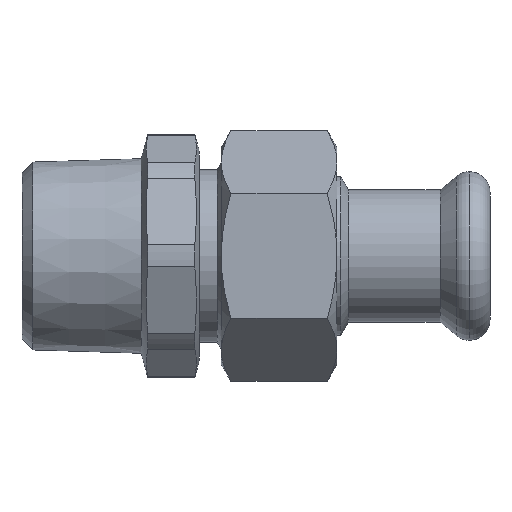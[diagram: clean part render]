
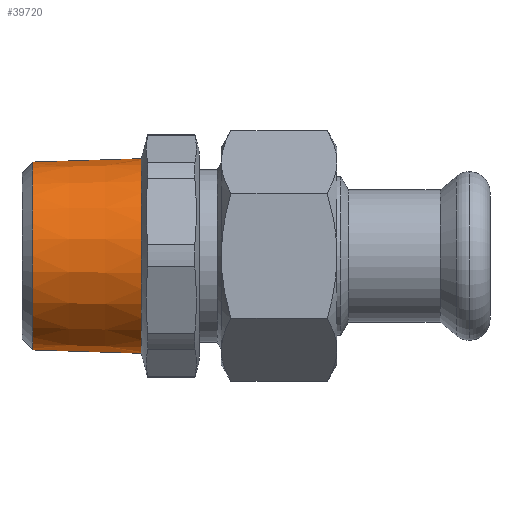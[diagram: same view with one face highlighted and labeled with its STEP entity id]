
A CAD part, top view. The second image highlights one B-rep face of the part: STEP entity #39720.
In plain terms, the highlighted conical face has half-angle 1.79 degrees and reference radius 13.453 mm.
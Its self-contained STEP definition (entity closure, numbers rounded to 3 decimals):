
#37800=CARTESIAN_POINT('',(232.749,0.274,
0.));
#37810=VERTEX_POINT('',#37800);
#39270=CARTESIAN_POINT('',(232.749,27.18,
0.));
#39280=VERTEX_POINT('',#39270);
#39310=CARTESIAN_POINT('',(232.749,13.727,
0.));
#39320=DIRECTION('',(-1.,0.,0.));
#39330=DIRECTION('',(0.,1.,0.));
#39340=AXIS2_PLACEMENT_3D('',#39310,#39320,#39330);
#39350=CIRCLE('',#39340,13.453);
#39360=EDGE_CURVE('',#37810,#39280,#39350,.T.);
#39410=CARTESIAN_POINT('',(232.749,13.727,
0.));
#39420=DIRECTION('',(-1.,0.,0.));
#39430=DIRECTION('',(0.,1.,0.));
#39440=AXIS2_PLACEMENT_3D('',#39410,#39420,#39430);
#39450=CONICAL_SURFACE('',#39440,13.453,0.031);
#39460=CARTESIAN_POINT('',(232.749,0.274,
0.));
#39470=DIRECTION('',(-1.,-0.031,
0.));
#39480=VECTOR('',#39470,1.);
#39490=LINE('',#39460,#39480);
#39500=CARTESIAN_POINT('',(247.749,0.742,
0.));
#39510=VERTEX_POINT('',#39500);
#39520=EDGE_CURVE('',#39510,#37810,#39490,.T.);
#39530=ORIENTED_EDGE('',*,*,#39520,.F.);
#39540=ORIENTED_EDGE('',*,*,#39360,.F.);
#39550=CARTESIAN_POINT('',(232.749,27.18,
0.));
#39560=DIRECTION('',(-1.,0.031,0.));
#39570=VECTOR('',#39560,1.);
#39580=LINE('',#39550,#39570);
#39590=CARTESIAN_POINT('',(247.749,26.711,
0.));
#39600=VERTEX_POINT('',#39590);
#39610=EDGE_CURVE('',#39600,#39280,#39580,.T.);
#39620=ORIENTED_EDGE('',*,*,#39610,.T.);
#39630=CARTESIAN_POINT('',(247.749,13.727,
0.));
#39640=DIRECTION('',(-1.,0.,0.));
#39650=DIRECTION('',(0.,1.,0.));
#39660=AXIS2_PLACEMENT_3D('',#39630,#39640,#39650);
#39670=CIRCLE('',#39660,12.984);
#39680=EDGE_CURVE('',#39510,#39600,#39670,.T.);
#39690=ORIENTED_EDGE('',*,*,#39680,.T.);
#39700=EDGE_LOOP('',(#39690,#39620,#39540,#39530));
#39710=FACE_OUTER_BOUND('',#39700,.T.);
#39720=ADVANCED_FACE('',(#39710),#39450,.T.);
